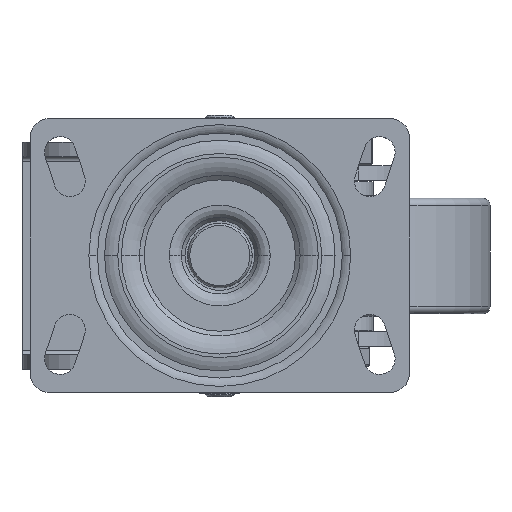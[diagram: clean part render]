
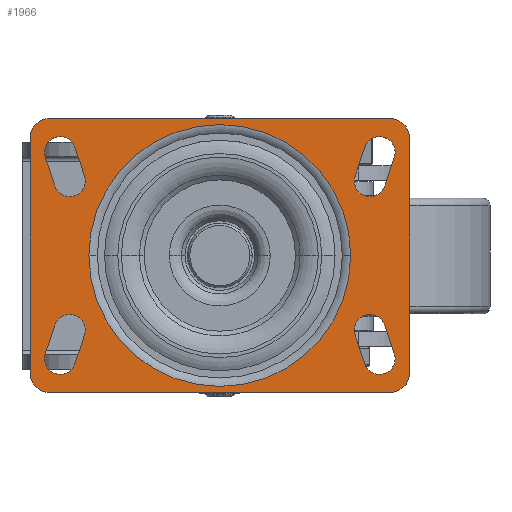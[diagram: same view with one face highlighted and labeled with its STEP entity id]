
A CAD part, top view. The second image highlights one B-rep face of the part: STEP entity #1966.
In plain terms, the highlighted planar face has unit normal (0, 0, 1).
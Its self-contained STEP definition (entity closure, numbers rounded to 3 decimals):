
#1136=PLANE('',#15921);
#1260=FACE_BOUND('',#4015,.T.);
#1261=FACE_BOUND('',#4016,.T.);
#1262=FACE_BOUND('',#4017,.T.);
#1263=FACE_BOUND('',#4018,.T.);
#1264=FACE_BOUND('',#4019,.T.);
#1265=FACE_BOUND('',#4020,.T.);
#1966=ADVANCED_FACE('',(#1260,#1261,#1262,#1263,#1264,#1265),#1136,.T.);
#4015=EDGE_LOOP('',(#8347,#8348,#8349,#8350,#8351,#8352,#8353,#8354));
#4016=EDGE_LOOP('',(#8355,#8356));
#4017=EDGE_LOOP('',(#8357,#8358,#8359,#8360));
#4018=EDGE_LOOP('',(#8361,#8362,#8363,#8364));
#4019=EDGE_LOOP('',(#8365,#8366,#8367,#8368));
#4020=EDGE_LOOP('',(#8369,#8370,#8371,#8372));
#4835=CIRCLE('',#15906,8.);
#4836=CIRCLE('',#15908,8.);
#4837=CIRCLE('',#15909,8.);
#4838=CIRCLE('',#15910,8.);
#4839=CIRCLE('',#15911,54.5);
#4840=CIRCLE('',#15912,54.5);
#4841=CIRCLE('',#15913,6.5);
#4842=CIRCLE('',#15914,6.5);
#4843=CIRCLE('',#15915,6.5);
#4844=CIRCLE('',#15916,6.5);
#4845=CIRCLE('',#15917,6.5);
#4846=CIRCLE('',#15918,6.5);
#4847=CIRCLE('',#15919,6.5);
#4848=CIRCLE('',#15920,6.5);
#8347=ORIENTED_EDGE('',*,*,#12394,.F.);
#8348=ORIENTED_EDGE('',*,*,#12395,.T.);
#8349=ORIENTED_EDGE('',*,*,#12396,.F.);
#8350=ORIENTED_EDGE('',*,*,#12397,.T.);
#8351=ORIENTED_EDGE('',*,*,#12398,.F.);
#8352=ORIENTED_EDGE('',*,*,#12399,.T.);
#8353=ORIENTED_EDGE('',*,*,#12400,.F.);
#8354=ORIENTED_EDGE('',*,*,#12393,.T.);
#8355=ORIENTED_EDGE('',*,*,#12401,.T.);
#8356=ORIENTED_EDGE('',*,*,#12402,.F.);
#8357=ORIENTED_EDGE('',*,*,#12403,.F.);
#8358=ORIENTED_EDGE('',*,*,#12404,.F.);
#8359=ORIENTED_EDGE('',*,*,#12405,.F.);
#8360=ORIENTED_EDGE('',*,*,#12406,.F.);
#8361=ORIENTED_EDGE('',*,*,#12407,.F.);
#8362=ORIENTED_EDGE('',*,*,#12408,.F.);
#8363=ORIENTED_EDGE('',*,*,#12409,.F.);
#8364=ORIENTED_EDGE('',*,*,#12410,.F.);
#8365=ORIENTED_EDGE('',*,*,#12411,.F.);
#8366=ORIENTED_EDGE('',*,*,#12412,.F.);
#8367=ORIENTED_EDGE('',*,*,#12413,.F.);
#8368=ORIENTED_EDGE('',*,*,#12414,.F.);
#8369=ORIENTED_EDGE('',*,*,#12415,.F.);
#8370=ORIENTED_EDGE('',*,*,#12416,.F.);
#8371=ORIENTED_EDGE('',*,*,#12417,.F.);
#8372=ORIENTED_EDGE('',*,*,#12418,.F.);
#10415=VERTEX_POINT('',#29515);
#10416=VERTEX_POINT('',#29517);
#10417=VERTEX_POINT('',#29521);
#10418=VERTEX_POINT('',#29523);
#10419=VERTEX_POINT('',#29525);
#10420=VERTEX_POINT('',#29527);
#10421=VERTEX_POINT('',#29529);
#10422=VERTEX_POINT('',#29531);
#10423=VERTEX_POINT('',#29534);
#10424=VERTEX_POINT('',#29535);
#10425=VERTEX_POINT('',#29538);
#10426=VERTEX_POINT('',#29539);
#10427=VERTEX_POINT('',#29541);
#10428=VERTEX_POINT('',#29543);
#10429=VERTEX_POINT('',#29546);
#10430=VERTEX_POINT('',#29547);
#10431=VERTEX_POINT('',#29549);
#10432=VERTEX_POINT('',#29551);
#10433=VERTEX_POINT('',#29554);
#10434=VERTEX_POINT('',#29555);
#10435=VERTEX_POINT('',#29557);
#10436=VERTEX_POINT('',#29559);
#10437=VERTEX_POINT('',#29562);
#10438=VERTEX_POINT('',#29563);
#10439=VERTEX_POINT('',#29565);
#10440=VERTEX_POINT('',#29567);
#12393=EDGE_CURVE('',#10415,#10416,#4835,.T.);
#12394=EDGE_CURVE('',#10417,#10416,#13692,.T.);
#12395=EDGE_CURVE('',#10417,#10418,#4836,.T.);
#12396=EDGE_CURVE('',#10419,#10418,#13693,.T.);
#12397=EDGE_CURVE('',#10419,#10420,#4837,.T.);
#12398=EDGE_CURVE('',#10421,#10420,#13694,.T.);
#12399=EDGE_CURVE('',#10421,#10422,#4838,.T.);
#12400=EDGE_CURVE('',#10415,#10422,#13695,.T.);
#12401=EDGE_CURVE('',#10423,#10424,#4839,.T.);
#12402=EDGE_CURVE('',#10423,#10424,#4840,.T.);
#12403=EDGE_CURVE('',#10425,#10426,#4841,.T.);
#12404=EDGE_CURVE('',#10427,#10425,#13696,.T.);
#12405=EDGE_CURVE('',#10428,#10427,#4842,.T.);
#12406=EDGE_CURVE('',#10426,#10428,#13697,.T.);
#12407=EDGE_CURVE('',#10429,#10430,#13698,.T.);
#12408=EDGE_CURVE('',#10431,#10429,#4843,.T.);
#12409=EDGE_CURVE('',#10432,#10431,#13699,.T.);
#12410=EDGE_CURVE('',#10430,#10432,#4844,.T.);
#12411=EDGE_CURVE('',#10433,#10434,#13700,.T.);
#12412=EDGE_CURVE('',#10435,#10433,#4845,.T.);
#12413=EDGE_CURVE('',#10436,#10435,#13701,.T.);
#12414=EDGE_CURVE('',#10434,#10436,#4846,.T.);
#12415=EDGE_CURVE('',#10437,#10438,#4847,.T.);
#12416=EDGE_CURVE('',#10439,#10437,#13702,.T.);
#12417=EDGE_CURVE('',#10440,#10439,#4848,.T.);
#12418=EDGE_CURVE('',#10438,#10440,#13703,.T.);
#13692=LINE('',#29520,#14605);
#13693=LINE('',#29524,#14606);
#13694=LINE('',#29528,#14607);
#13695=LINE('',#29532,#14608);
#13696=LINE('',#29540,#14609);
#13697=LINE('',#29544,#14610);
#13698=LINE('',#29545,#14611);
#13699=LINE('',#29550,#14612);
#13700=LINE('',#29553,#14613);
#13701=LINE('',#29558,#14614);
#13702=LINE('',#29564,#14615);
#13703=LINE('',#29568,#14616);
#14605=VECTOR('',#19432,1.);
#14606=VECTOR('',#19435,1.);
#14607=VECTOR('',#19438,1.);
#14608=VECTOR('',#19441,1.);
#14609=VECTOR('',#19448,1.);
#14610=VECTOR('',#19451,1.);
#14611=VECTOR('',#19452,1.);
#14612=VECTOR('',#19455,1.);
#14613=VECTOR('',#19458,1.);
#14614=VECTOR('',#19461,1.);
#14615=VECTOR('',#19466,1.);
#14616=VECTOR('',#19469,1.);
#15906=AXIS2_PLACEMENT_3D('',#29518,#19428,#19429);
#15908=AXIS2_PLACEMENT_3D('',#29522,#19433,#19434);
#15909=AXIS2_PLACEMENT_3D('',#29526,#19436,#19437);
#15910=AXIS2_PLACEMENT_3D('',#29530,#19439,#19440);
#15911=AXIS2_PLACEMENT_3D('',#29533,#19442,#19443);
#15912=AXIS2_PLACEMENT_3D('',#29536,#19444,#19445);
#15913=AXIS2_PLACEMENT_3D('',#29537,#19446,#19447);
#15914=AXIS2_PLACEMENT_3D('',#29542,#19449,#19450);
#15915=AXIS2_PLACEMENT_3D('',#29548,#19453,#19454);
#15916=AXIS2_PLACEMENT_3D('',#29552,#19456,#19457);
#15917=AXIS2_PLACEMENT_3D('',#29556,#19459,#19460);
#15918=AXIS2_PLACEMENT_3D('',#29560,#19462,#19463);
#15919=AXIS2_PLACEMENT_3D('',#29561,#19464,#19465);
#15920=AXIS2_PLACEMENT_3D('',#29566,#19467,#19468);
#15921=AXIS2_PLACEMENT_3D('',#29569,#19470,#19471);
#19428=DIRECTION('',(0.,0.,1.));
#19429=DIRECTION('',(0.,-1.,0.));
#19432=DIRECTION('',(0.,-1.,0.));
#19433=DIRECTION('',(0.,0.,1.));
#19434=DIRECTION('',(1.,0.,0.));
#19435=DIRECTION('',(1.,0.,0.));
#19436=DIRECTION('',(0.,0.,1.));
#19437=DIRECTION('',(0.,1.,0.));
#19438=DIRECTION('',(0.,1.,0.));
#19439=DIRECTION('',(0.,0.,1.));
#19440=DIRECTION('',(-1.,0.,0.));
#19441=DIRECTION('',(-1.,0.,0.));
#19442=DIRECTION('',(0.,0.,-1.));
#19443=DIRECTION('',(1.,0.,0.));
#19444=DIRECTION('',(0.,0.,1.));
#19445=DIRECTION('',(1.,0.,0.));
#19446=DIRECTION('',(0.,0.,1.));
#19447=DIRECTION('',(0.949,0.316,0.));
#19448=DIRECTION('',(-0.316,0.949,0.));
#19449=DIRECTION('',(0.,0.,1.));
#19450=DIRECTION('',(-0.949,-0.316,0.));
#19451=DIRECTION('',(0.316,-0.949,0.));
#19452=DIRECTION('',(0.316,0.949,0.));
#19453=DIRECTION('',(0.,0.,1.));
#19454=DIRECTION('',(-0.949,0.316,0.));
#19455=DIRECTION('',(-0.316,-0.949,0.));
#19456=DIRECTION('',(0.,0.,1.));
#19457=DIRECTION('',(0.949,-0.316,0.));
#19458=DIRECTION('',(-0.316,-0.949,0.));
#19459=DIRECTION('',(0.,0.,1.));
#19460=DIRECTION('',(0.949,-0.316,0.));
#19461=DIRECTION('',(0.316,0.949,0.));
#19462=DIRECTION('',(0.,0.,1.));
#19463=DIRECTION('',(-0.949,0.316,0.));
#19464=DIRECTION('',(0.,0.,1.));
#19465=DIRECTION('',(-0.949,-0.316,0.));
#19466=DIRECTION('',(0.316,-0.949,0.));
#19467=DIRECTION('',(0.,0.,1.));
#19468=DIRECTION('',(0.949,0.316,0.));
#19469=DIRECTION('',(-0.316,0.949,0.));
#19470=DIRECTION('',(0.,0.,1.));
#19471=DIRECTION('',(1.,0.,0.));
#29515=CARTESIAN_POINT('',(71.,-57.,0.));
#29517=CARTESIAN_POINT('',(79.,-49.,0.));
#29518=CARTESIAN_POINT('',(71.,-49.,0.));
#29520=CARTESIAN_POINT('',(79.,49.,0.));
#29521=CARTESIAN_POINT('',(79.,49.,0.));
#29522=CARTESIAN_POINT('',(71.,49.,0.));
#29523=CARTESIAN_POINT('',(71.,57.,0.));
#29524=CARTESIAN_POINT('',(-71.,57.,0.));
#29525=CARTESIAN_POINT('',(-71.,57.,0.));
#29526=CARTESIAN_POINT('',(-71.,49.,0.));
#29527=CARTESIAN_POINT('',(-79.,49.,0.));
#29528=CARTESIAN_POINT('',(-79.,-49.,0.));
#29529=CARTESIAN_POINT('',(-79.,-49.,0.));
#29530=CARTESIAN_POINT('',(-71.,-49.,0.));
#29531=CARTESIAN_POINT('',(-71.,-57.,0.));
#29532=CARTESIAN_POINT('',(71.,-57.,0.));
#29533=CARTESIAN_POINT('',(0.,0.,0.));
#29534=CARTESIAN_POINT('',(54.5,0.,0.));
#29535=CARTESIAN_POINT('',(-54.5,0.,0.));
#29536=CARTESIAN_POINT('',(0.,0.,0.));
#29537=CARTESIAN_POINT('',(-66.5,43.,0.));
#29538=CARTESIAN_POINT('',(-60.334,45.055,0.));
#29539=CARTESIAN_POINT('',(-72.666,40.945,0.));
#29540=CARTESIAN_POINT('',(-56.334,33.055,0.));
#29541=CARTESIAN_POINT('',(-56.334,33.055,0.));
#29542=CARTESIAN_POINT('',(-62.5,31.,0.));
#29543=CARTESIAN_POINT('',(-68.666,28.945,0.));
#29544=CARTESIAN_POINT('',(-72.666,40.945,0.));
#29545=CARTESIAN_POINT('',(68.666,28.945,0.));
#29546=CARTESIAN_POINT('',(68.666,28.945,0.));
#29547=CARTESIAN_POINT('',(72.666,40.945,0.));
#29548=CARTESIAN_POINT('',(62.5,31.,0.));
#29549=CARTESIAN_POINT('',(56.334,33.055,0.));
#29550=CARTESIAN_POINT('',(60.334,45.055,0.));
#29551=CARTESIAN_POINT('',(60.334,45.055,0.));
#29552=CARTESIAN_POINT('',(66.5,43.,0.));
#29553=CARTESIAN_POINT('',(-68.666,-28.945,0.));
#29554=CARTESIAN_POINT('',(-68.666,-28.945,0.));
#29555=CARTESIAN_POINT('',(-72.666,-40.945,0.));
#29556=CARTESIAN_POINT('',(-62.5,-31.,0.));
#29557=CARTESIAN_POINT('',(-56.334,-33.055,0.));
#29558=CARTESIAN_POINT('',(-60.334,-45.055,0.));
#29559=CARTESIAN_POINT('',(-60.334,-45.055,0.));
#29560=CARTESIAN_POINT('',(-66.5,-43.,0.));
#29561=CARTESIAN_POINT('',(66.5,-43.,0.));
#29562=CARTESIAN_POINT('',(60.334,-45.055,0.));
#29563=CARTESIAN_POINT('',(72.666,-40.945,0.));
#29564=CARTESIAN_POINT('',(56.334,-33.055,0.));
#29565=CARTESIAN_POINT('',(56.334,-33.055,0.));
#29566=CARTESIAN_POINT('',(62.5,-31.,0.));
#29567=CARTESIAN_POINT('',(68.666,-28.945,0.));
#29568=CARTESIAN_POINT('',(72.666,-40.945,0.));
#29569=CARTESIAN_POINT('',(0.,0.,0.));
